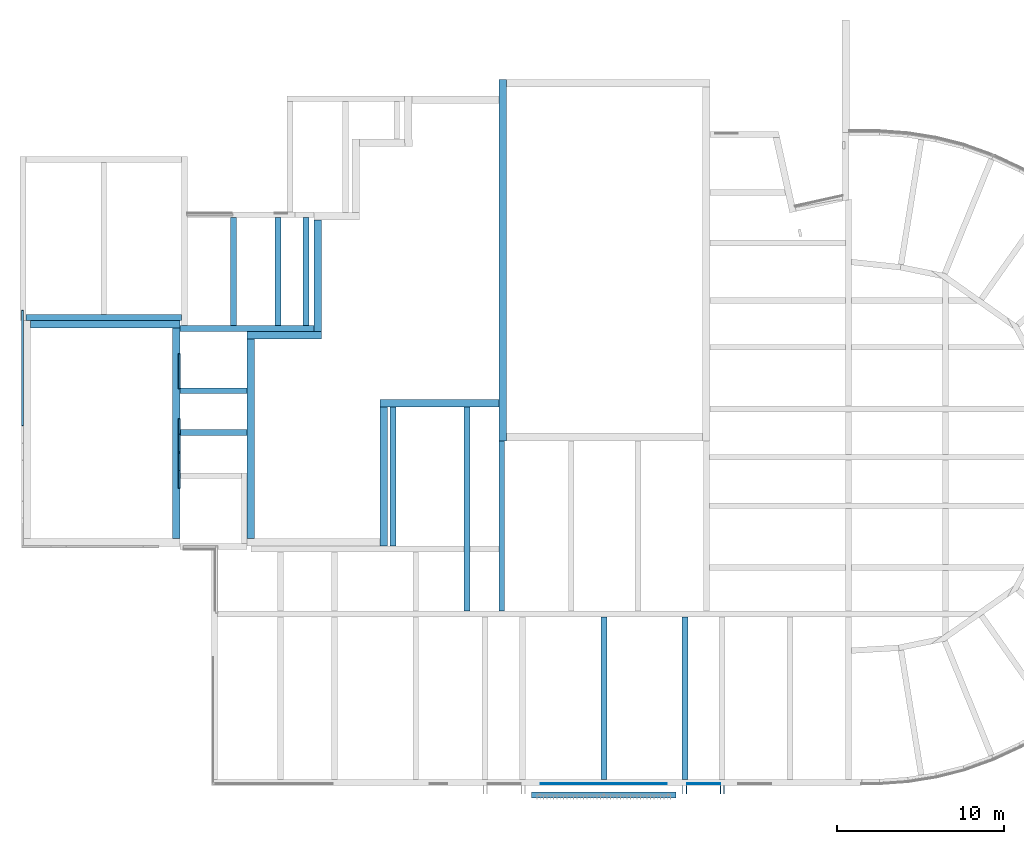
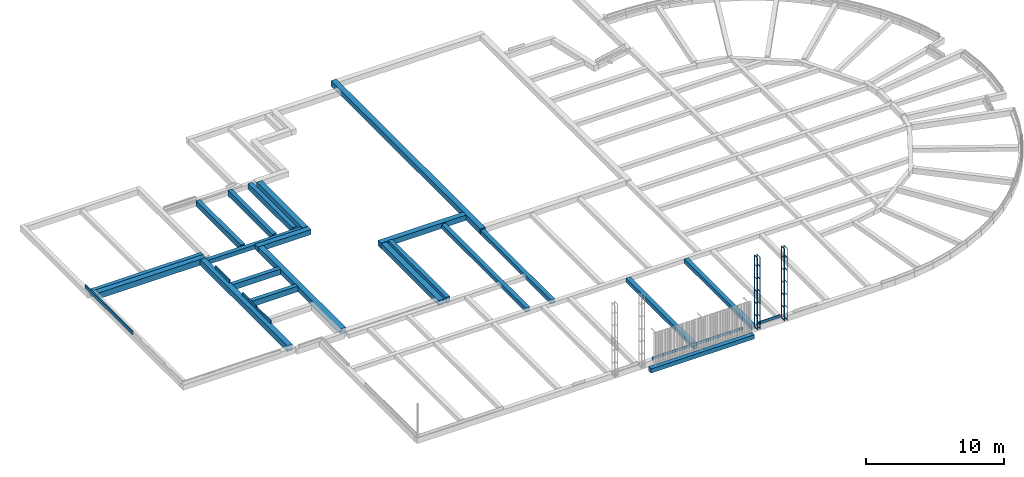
# One storey, part 2 of 11: 30 walls, 3 openings.
"""IFC2X3 building model written with IfcOpenShell, lengths in millimetres."""

from ifc_helpers import new_model, entity, si_unit, converted_unit, derived_unit, direction, frame, frame_2d, origin, origin_2d_with_axis, place, context, subcontext, project, spatial, polyline, rectangle, extrude, clip, bounded_halfspace, material, layer, layer_set, layer_usage, type_object, element, save


model = new_model("IFC2X3")

# Units and contexts
model_context = context("Model", 3, precision=0.01, world=origin(), true_north=direction((6.12303176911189e-17, 1.0)))
body_context = subcontext(model_context, "Body", "Model", "MODEL_VIEW")
ifc_project = project(units=[si_unit("LENGTHUNIT", "METRE", prefix="MILLI"), si_unit("AREAUNIT", "SQUARE_METRE"), si_unit("VOLUMEUNIT", "CUBIC_METRE"), converted_unit("PLANEANGLEUNIT", "DEGREE", entity("IfcRatioMeasure", 0.0174532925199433), si_unit("PLANEANGLEUNIT", "RADIAN"), dimensions=[0, 0, 0, 0, 0, 0, 0]), si_unit("MASSUNIT", "GRAM", prefix="KILO"), derived_unit("MASSDENSITYUNIT", [(si_unit("MASSUNIT", "GRAM", prefix="KILO"), 1), (si_unit("LENGTHUNIT", "METRE"), -3)]), derived_unit("MOMENTOFINERTIAUNIT", [(si_unit("LENGTHUNIT", "METRE"), 4)]), si_unit("TIMEUNIT", "SECOND"), si_unit("FREQUENCYUNIT", "HERTZ"), si_unit("THERMODYNAMICTEMPERATUREUNIT", "DEGREE_CELSIUS"), derived_unit("THERMALTRANSMITTANCEUNIT", [(si_unit("MASSUNIT", "GRAM", prefix="KILO"), 1), (si_unit("THERMODYNAMICTEMPERATUREUNIT", "KELVIN"), -1), (si_unit("TIMEUNIT", "SECOND"), -3)]), derived_unit("VOLUMETRICFLOWRATEUNIT", [(si_unit("LENGTHUNIT", "METRE"), 3), (si_unit("TIMEUNIT", "SECOND"), -1)]), si_unit("ELECTRICCURRENTUNIT", "AMPERE"), si_unit("ELECTRICVOLTAGEUNIT", "VOLT"), si_unit("POWERUNIT", "WATT"), si_unit("FORCEUNIT", "NEWTON", prefix="KILO"), si_unit("ILLUMINANCEUNIT", "LUX"), si_unit("LUMINOUSFLUXUNIT", "LUMEN"), si_unit("LUMINOUSINTENSITYUNIT", "CANDELA"), derived_unit("USERDEFINED", [(si_unit("MASSUNIT", "GRAM", prefix="KILO"), -1), (si_unit("LENGTHUNIT", "METRE"), -2), (si_unit("TIMEUNIT", "SECOND"), 3), (si_unit("LUMINOUSFLUXUNIT", "LUMEN"), 1)]), derived_unit("LINEARVELOCITYUNIT", [(si_unit("LENGTHUNIT", "METRE"), 1), (si_unit("TIMEUNIT", "SECOND"), -1)]), si_unit("PRESSUREUNIT", "PASCAL"), derived_unit("USERDEFINED", [(si_unit("LENGTHUNIT", "METRE"), -2), (si_unit("MASSUNIT", "GRAM", prefix="KILO"), 1), (si_unit("TIMEUNIT", "SECOND"), -2)]), derived_unit("LINEARFORCEUNIT", [(si_unit("MASSUNIT", "GRAM", prefix="KILO"), 1), (si_unit("LENGTHUNIT", "METRE"), 1), (si_unit("TIMEUNIT", "SECOND"), -2), (si_unit("LENGTHUNIT", "METRE"), -1)]), derived_unit("PLANARFORCEUNIT", [(si_unit("MASSUNIT", "GRAM", prefix="KILO"), 1), (si_unit("LENGTHUNIT", "METRE"), 1), (si_unit("TIMEUNIT", "SECOND"), -2), (si_unit("LENGTHUNIT", "METRE"), -2)])], contexts=[model_context])

# Site, building, storey
site_placement = place(None, origin())
site = spatial("IfcSite", under=ifc_project, at=site_placement, Name="Default", CompositionType="ELEMENT")
building_placement = place(site_placement, origin())
building = spatial("IfcBuilding", under=site, at=building_placement, Name="-", CompositionType="ELEMENT")
storey_placement = place(building_placement, frame((0.0, 0.0, -780.0)))
storey = spatial("IfcBuildingStorey", under=building, at=storey_placement, Name="ok. fundering", CompositionType="ELEMENT", Elevation=-780.0)

# Wall
ifc_material_1 = material(Name="AL_metselwerk 210x100x50 halfsteens geel")
ifc_layer_1 = layer(ifc_material_1, 100.0)
ifc_layer_set_1 = layer_set([ifc_layer_1], Name="Basic Wall:NLRS_20_WA_Metselwerk-100mm")
ifc_layer_usage_1 = layer_usage(ifc_layer_set_1, "AXIS2", "NEGATIVE", 50.0)
wall_type_1 = type_object("IfcWallType", Name="Basic Wall:NLRS_20_WA_Metselwerk-100mm", PredefinedType="STANDARD", material=ifc_layer_set_1)
wall_1_placement = place(storey_placement, frame((9340.09502929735, 25823.1389249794, 520.0), z_axis=(0.0, 0.0, 1.0), x_axis=(0.0, -1.0, 0.0)))
element("IfcWallStandardCase", 1, at=wall_1_placement, inside=storey, type_object=wall_type_1, material=ifc_layer_usage_1, Name="Basic Wall:NLRS_20_WA_Metselwerk-100mm", ObjectType="Basic Wall:NLRS_20_WA_Metselwerk-100mm", context=body_context, shape_type="SweptSolid", body=[
    extrude(rectangle(XDim=2091.91806266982, YDim=100.000000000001, at=frame_2d((1045.95903133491, -2.02504679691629e-13), x_axis=(-1.0, 0.0))), origin(), (0.0, 0.0, 1.0), 259.99999999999),
])

# Wall, openings
ifc_layer_usage_2 = layer_usage(ifc_layer_set_1, "AXIS2", "NEGATIVE", 50.0)
wall_2_placement = place(storey_placement, frame((9340.09502929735, 21915.3806605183, 530.0), z_axis=(0.0, 0.0, 1.0), x_axis=(0.0, -1.0, 0.0)))
wall_2 = element("IfcWallStandardCase", 2, at=wall_2_placement, inside=storey, type_object=wall_type_1, material=ifc_layer_usage_2, Name="Basic Wall:NLRS_20_WA_Metselwerk-100mm", ObjectType="Basic Wall:NLRS_20_WA_Metselwerk-100mm", context=body_context, shape_type="SweptSolid", body=[
    extrude(rectangle(XDim=4145.5604100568, YDim=100.000000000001, at=frame_2d((2072.7802050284, 0.0), x_axis=(-1.0, 0.0))), origin(), (0.0, 0.0, 1.0), 250.0),
])
opening_1_placement = place(wall_2_placement, origin())
element("IfcOpeningElement", 3, at=opening_1_placement, cuts=wall_2, Name="Basic Wall:NLRS_20_WA_Metselwerk-100mm", ObjectType="Opening", context=body_context, shape_type="SweptSolid", body=[
    extrude(rectangle(XDim=2142.00000000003, YDim=1033.99999999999, at=frame_2d((1.08002495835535e-12, 0.0), x_axis=(0.0, 1.0))), frame((2584.5604100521, -1480.32428373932, 1271.0), z_axis=(0.0, 1.0, 0.0), x_axis=(-1.0, 0.0, 0.0)), (0.0, 0.0, 1.0), 3048.0),
])
opening_2_placement = place(wall_2_placement, origin())
element("IfcOpeningElement", 4, at=opening_2_placement, cuts=wall_2, Name="Basic Wall:NLRS_20_WA_Metselwerk-100mm", ObjectType="Opening", context=body_context, shape_type="SweptSolid", body=[
    extrude(rectangle(XDim=2142.00000000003, YDim=1033.99999999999, at=frame_2d((-2.1600499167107e-12, 0.0), x_axis=(0.0, 1.0))), frame((1450.5604100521, -1480.32428373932, 1271.0), z_axis=(0.0, 1.0, 0.0), x_axis=(-1.0, 0.0, 0.0)), (0.0, 0.0, 1.0), 3048.0),
])

# Walls
ifc_material_2 = material(Name="NLRS_g2_baksteen  rood genuanceerd Klamp")
ifc_layer_2 = layer(ifc_material_2, 50.0)
ifc_layer_set_2 = layer_set([ifc_layer_2], Name="Basic Wall:NLRS_20_WA_Metselwerk klamp, Eems wf-p-0081-25")
ifc_layer_usage_3 = layer_usage(ifc_layer_set_2, "AXIS2", "NEGATIVE", 25.0)
wall_type_2 = type_object("IfcWallType", Name="Basic Wall:NLRS_20_WA_Metselwerk klamp, Eems wf-p-0081-25", PredefinedType="STANDARD", material=ifc_layer_set_2)
wall_3_placement = place(storey_placement, frame((30954.8462249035, 81.3703555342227, 500.0)))
element("IfcWallStandardCase", 5, at=wall_3_placement, inside=storey, type_object=wall_type_2, material=ifc_layer_usage_3, Name="Basic Wall:NLRS_20_WA_Metselwerk klamp, Eems wf-p-0081-25", ObjectType="Basic Wall:NLRS_20_WA_Metselwerk klamp, Eems wf-p-0081-25", context=body_context, shape_type="SweptSolid", body=[
    extrude(rectangle(XDim=7552.43969210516, YDim=50.0, at=frame_2d((3776.21984605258, -1.77635683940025e-15), x_axis=(-1.0, 0.0))), origin(), (0.0, 0.0, 1.0), 239.99999999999),
])
ifc_layer_usage_4 = layer_usage(ifc_layer_set_2, "AXIS2", "NEGATIVE", 25.0)
wall_4_placement = place(storey_placement, frame((39728.0668104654, 81.3703555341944, 500.0)))
element("IfcWallStandardCase", 6, at=wall_4_placement, inside=storey, type_object=wall_type_2, material=ifc_layer_usage_4, Name="Basic Wall:NLRS_20_WA_Metselwerk klamp, Eems wf-p-0081-25", ObjectType="Basic Wall:NLRS_20_WA_Metselwerk klamp, Eems wf-p-0081-25", context=body_context, shape_type="SweptSolid", body=[
    extrude(rectangle(XDim=1959.22548686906, YDim=50.0, at=frame_2d((979.612743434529, -8.88178419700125e-15), x_axis=(-1.0, 0.0))), origin(), (0.0, 0.0, 1.0), 239.99999999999),
])
ifc_material_3 = material(Name="NLRS_f2_beton")
ifc_layer_3 = layer(ifc_material_3, 450.0)
ifc_layer_set_3 = layer_set([ifc_layer_3], Name="Basic Wall:NLRS_16_WA_funderingsbalk 450x...mm_gen_aly")
ifc_layer_usage_5 = layer_usage(ifc_layer_set_3, "AXIS2", "NEGATIVE", 225.0)
wall_type_3 = type_object("IfcWallType", Name="Basic Wall:NLRS_16_WA_funderingsbalk 450x...mm_gen_aly", PredefinedType="STANDARD", material=ifc_layer_set_3)
wall_5_placement = place(storey_placement, frame((28679.0, 20606.3202504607, 0.0), z_axis=(0.0, 0.0, 1.0), x_axis=(0.0, 1.0, 0.0)))
element("IfcWallStandardCase", 7, at=wall_5_placement, inside=storey, type_object=wall_type_3, material=ifc_layer_usage_5, Name="Basic Wall:NLRS_16_WA_funderingsbalk 450x...mm_gen_aly", ObjectType="Basic Wall:NLRS_16_WA_funderingsbalk 450x...mm_gen_aly", context=body_context, shape_type="SweptSolid", body=[
    extrude(rectangle(XDim=21619.0, YDim=450.000000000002, at=frame_2d((10809.5, 0.0), x_axis=(-1.0, 0.0))), origin(), (0.0, 0.0, 1.0), 469.999999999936),
])
ifc_layer_usage_6 = layer_usage(ifc_layer_set_3, "AXIS2", "NEGATIVE", 225.0)
wall_6_placement = place(storey_placement, frame((425.976011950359, 27580.9865767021, 0.0)))
element("IfcWallStandardCase", 8, at=wall_6_placement, inside=storey, type_object=wall_type_3, material=ifc_layer_usage_6, Name="Basic Wall:NLRS_16_WA_funderingsbalk 450x...mm_gen_aly", ObjectType="Basic Wall:NLRS_16_WA_funderingsbalk 450x...mm_gen_aly", context=body_context, shape_type="SweptSolid", body=[
    extrude(rectangle(XDim=8964.05425748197, YDim=450.000000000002, at=frame_2d((4482.02712874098, -5.6843418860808e-13), x_axis=(-1.0, 0.0))), origin(), (0.0, 0.0, 1.0), 519.999999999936),
])
ifc_layer_usage_7 = layer_usage(ifc_layer_set_3, "AXIS2", "NEGATIVE", 225.0)
wall_7_placement = place(storey_placement, frame((9165.03026943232, 27355.9865767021, 0.0), z_axis=(0.0, 0.0, 1.0), x_axis=(0.0, -1.0, 0.0)))
element("IfcWallStandardCase", 9, at=wall_7_placement, inside=storey, type_object=wall_type_3, material=ifc_layer_usage_7, Name="Basic Wall:NLRS_16_WA_funderingsbalk 450x...mm_gen_aly", ObjectType="Basic Wall:NLRS_16_WA_funderingsbalk 450x...mm_gen_aly", context=body_context, shape_type="SweptSolid", body=[
    extrude(rectangle(XDim=12611.2464471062, YDim=449.999999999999, at=frame_2d((6305.62322355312, 1.56319401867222e-13), x_axis=(-1.0, 0.0))), origin(), (0.0, 0.0, 1.0), 519.999999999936),
])
ifc_layer_usage_8 = layer_usage(ifc_layer_set_3, "AXIS2", "NEGATIVE", 225.0)
wall_8_placement = place(storey_placement, frame((28454.0, 22860.7754001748, 0.0), z_axis=(0.0, 0.0, 1.0), x_axis=(-1.0, 0.0, 0.0)))
element("IfcWallStandardCase", 10, at=wall_8_placement, inside=storey, type_object=wall_type_3, material=ifc_layer_usage_8, Name="Basic Wall:NLRS_16_WA_funderingsbalk 450x...mm_gen_aly", ObjectType="Basic Wall:NLRS_16_WA_funderingsbalk 450x...mm_gen_aly", context=body_context, shape_type="SweptSolid", body=[
    extrude(rectangle(XDim=7115.00000000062, YDim=450.000000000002, at=frame_2d((3557.50000000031, 4.54747350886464e-13), x_axis=(-1.0, 0.0))), origin(), (0.0, 0.0, 1.0), 469.999999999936),
])
ifc_layer_usage_9 = layer_usage(ifc_layer_set_3, "AXIS2", "NEGATIVE", 225.0)
wall_9_placement = place(storey_placement, frame((21564.0, 22635.7754001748, 0.0), z_axis=(0.0, 0.0, 1.0), x_axis=(0.0, -1.0, 0.0)))
element("IfcWallStandardCase", 11, at=wall_9_placement, inside=storey, type_object=wall_type_3, material=ifc_layer_usage_9, Name="Basic Wall:NLRS_16_WA_funderingsbalk 450x...mm_gen_aly", ObjectType="Basic Wall:NLRS_16_WA_funderingsbalk 450x...mm_gen_aly", context=body_context, shape_type="SweptSolid", body=[
    extrude(rectangle(XDim=8328.88661471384, YDim=450.000000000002, at=frame_2d((4164.44330735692, -6.3948846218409e-13), x_axis=(-1.0, 0.0))), origin(), (0.0, 0.0, 1.0), 449.999999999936),
])
ifc_layer_usage_10 = layer_usage(ifc_layer_set_3, "AXIS2", "NEGATIVE", 225.0)
wall_10_placement = place(storey_placement, frame((13400.0, 26921.1887100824, 0.0)))
element("IfcWallStandardCase", 12, at=wall_10_placement, inside=storey, type_object=wall_type_3, material=ifc_layer_usage_10, Name="Basic Wall:NLRS_16_WA_funderingsbalk 450x...mm_gen_aly", ObjectType="Basic Wall:NLRS_16_WA_funderingsbalk 450x...mm_gen_aly", context=body_context, shape_type="SweptSolid", body=[
    extrude(rectangle(XDim=4444.64234277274, YDim=450.000000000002, at=frame_2d((2222.32117138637, -2.1316282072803e-13), x_axis=(-1.0, 0.0))), origin(), (0.0, 0.0, 1.0), 449.999999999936),
])
ifc_layer_usage_11 = layer_usage(ifc_layer_set_3, "AXIS2", "NEGATIVE", 225.0)
wall_11_placement = place(storey_placement, frame((13625.0, 26696.1887100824, 0.0), z_axis=(0.0, 0.0, 1.0), x_axis=(0.0, -1.0, 0.0)))
element("IfcWallStandardCase", 13, at=wall_11_placement, inside=storey, type_object=wall_type_3, material=ifc_layer_usage_11, Name="Basic Wall:NLRS_16_WA_funderingsbalk 450x...mm_gen_aly", ObjectType="Basic Wall:NLRS_16_WA_funderingsbalk 450x...mm_gen_aly", context=body_context, shape_type="SweptSolid", body=[
    extrude(rectangle(XDim=11939.2999246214, YDim=450.000000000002, at=frame_2d((5969.64996231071, -1.84741111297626e-13), x_axis=(-1.0, 0.0))), origin(), (0.0, 0.0, 1.0), 449.999999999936),
])
ifc_layer_usage_12 = layer_usage(ifc_layer_set_3, "AXIS2", "NEGATIVE", 225.0)
wall_12_placement = place(storey_placement, frame((17619.6423427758, 33812.1311772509, 0.0), z_axis=(0.0, 0.0, 1.0), x_axis=(0.0, -1.0, 0.0)))
element("IfcWallStandardCase", 14, at=wall_12_placement, inside=storey, type_object=wall_type_3, material=ifc_layer_usage_12, Name="Basic Wall:NLRS_16_WA_funderingsbalk 450x...mm_gen_aly", ObjectType="Basic Wall:NLRS_16_WA_funderingsbalk 450x...mm_gen_aly", context=body_context, shape_type="SweptSolid", body=[
    extrude(rectangle(XDim=6665.94246716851, YDim=450.000000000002, at=frame_2d((3332.97123358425, -7.38964445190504e-13), x_axis=(-1.0, 0.0))), origin(), (0.0, 0.0, 1.0), 469.999999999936),
])
ifc_layer_4 = layer(ifc_material_3, 350.0)
ifc_layer_set_4 = layer_set([ifc_layer_4], Name="Basic Wall:NLRS_16_WA_funderingsbalk 350x...mm_gen_aly")
ifc_layer_usage_13 = layer_usage(ifc_layer_set_4, "AXIS2", "NEGATIVE", 175.0)
wall_type_4 = type_object("IfcWallType", Name="Basic Wall:NLRS_16_WA_funderingsbalk 350x...mm_gen_aly", PredefinedType="STANDARD", material=ifc_layer_set_4)
wall_13_placement = place(storey_placement, frame((39587.2795366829, 336.121222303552, 0.0), z_axis=(0.0, 0.0, 1.0), x_axis=(0.0, 1.0, 0.0)))
element("IfcWallStandardCase", 15, at=wall_13_placement, inside=storey, type_object=wall_type_4, material=ifc_layer_usage_13, Name="Basic Wall:NLRS_16_WA_funderingsbalk 350x...mm_gen_aly", ObjectType="Basic Wall:NLRS_16_WA_funderingsbalk 350x...mm_gen_aly", context=body_context, shape_type="Clipping", body=[
    clip(extrude(rectangle(XDim=9732.50287309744, YDim=350.000000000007, at=frame_2d((4866.25143654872, 8.66862137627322e-13), x_axis=(-1.0, 0.0))), origin(), (0.0, 0.0, 1.0), 369.999999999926), bounded_halfspace(frame((0.0, -175.0, 370.0), z_axis=(0.0, 0.0, -1.0), x_axis=(1.0, 0.0, 0.0)), True, frame((0.0, -175.0, 370.0), z_axis=(0.0, 0.0, -1.0), x_axis=(1.0, 0.0, 0.0)), polyline([(0.0, 0.0), (0.0, -350.0), (9732.50287309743, -350.0), (9732.50287309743, 0.0), (0.0, 0.0)]))),
])
ifc_layer_usage_14 = layer_usage(ifc_layer_set_4, "AXIS2", "NEGATIVE", 175.0)
wall_14_placement = place(storey_placement, frame((22120.0, 14306.888785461, 0.0), z_axis=(0.0, 0.0, 1.0), x_axis=(0.0, 1.0, 0.0)))
element("IfcWallStandardCase", 16, at=wall_14_placement, inside=storey, type_object=wall_type_4, material=ifc_layer_usage_14, Name="Basic Wall:NLRS_16_WA_funderingsbalk 350x...mm_gen_aly", ObjectType="Basic Wall:NLRS_16_WA_funderingsbalk 350x...mm_gen_aly", context=body_context, shape_type="SweptSolid", body=[
    extrude(rectangle(XDim=8328.88661471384, YDim=349.999999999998, at=frame_2d((4164.44330735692, 8.81072992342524e-13), x_axis=(-1.0, 0.0))), origin(), (0.0, 0.0, 1.0), 499.999999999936),
])
ifc_layer_usage_15 = layer_usage(ifc_layer_set_4, "AXIS2", "NEGATIVE", 175.0)
wall_15_placement = place(storey_placement, frame((26557.1458887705, 10418.624095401, 0.0), z_axis=(0.0, 0.0, 1.0), x_axis=(0.0, 1.0, 0.0)))
element("IfcWallStandardCase", 17, at=wall_15_placement, inside=storey, type_object=wall_type_4, material=ifc_layer_usage_15, Name="Basic Wall:NLRS_16_WA_funderingsbalk 350x...mm_gen_aly", ObjectType="Basic Wall:NLRS_16_WA_funderingsbalk 350x...mm_gen_aly", context=body_context, shape_type="Clipping", body=[
    clip(extrude(rectangle(XDim=12217.1513047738, YDim=349.999999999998, at=frame_2d((6108.57565238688, -3.69482222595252e-13), x_axis=(-1.0, 0.0))), origin(), (0.0, 0.0, 1.0), 369.999999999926), bounded_halfspace(frame((0.0, -175.0, 370.0), z_axis=(0.0, 0.0, -1.0), x_axis=(1.0, 0.0, 0.0)), True, frame((0.0, -175.0, 370.0), z_axis=(0.0, 0.0, -1.0), x_axis=(1.0, 0.0, 0.0)), polyline([(0.0, 0.0), (0.0, -350.0), (3538.26469005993, -350.0), (3888.26469005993, -350.0), (12217.1513047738, -350.0), (12217.1513047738, 0.0), (3888.26469005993, 0.0), (3538.26469005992, 0.0), (0.0, 0.0)]))),
])
ifc_layer_usage_16 = layer_usage(ifc_layer_set_4, "AXIS2", "NEGATIVE", 175.0)
wall_16_placement = place(storey_placement, frame((28630.6948343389, 10418.624095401, 0.0), z_axis=(0.0, 0.0, 1.0), x_axis=(0.0, 1.0, 0.0)))
element("IfcWallStandardCase", 18, at=wall_16_placement, inside=storey, type_object=wall_type_4, material=ifc_layer_usage_16, Name="Basic Wall:NLRS_16_WA_funderingsbalk 350x...mm_gen_aly", ObjectType="Basic Wall:NLRS_16_WA_funderingsbalk 350x...mm_gen_aly", context=body_context, shape_type="Clipping", body=[
    clip(extrude(rectangle(XDim=10187.6961550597, YDim=349.999999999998, at=frame_2d((5093.84807752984, 1.73372427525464e-12), x_axis=(-1.0, 0.0))), origin(), (0.0, 0.0, 1.0), 369.999999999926), bounded_halfspace(frame((0.0, -175.0, 370.0), z_axis=(0.0, 0.0, -1.0), x_axis=(1.0, 0.0, 0.0)), True, frame((0.0, -175.0, 370.0), z_axis=(0.0, 0.0, -1.0), x_axis=(1.0, 0.0, 0.0)), polyline([(0.0, 0.0), (0.0, -350.0), (3538.26469005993, -350.0), (3888.26469005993, -350.0), (10187.6961550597, -350.0), (10187.6961550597, -335.0), (10187.6961550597, 0.0), (0.0, 0.0)]))),
])
ifc_layer_usage_17 = layer_usage(ifc_layer_set_4, "AXIS2", "NEGATIVE", 175.0)
wall_17_placement = place(storey_placement, frame((9390.03026943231, 21101.2208623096, 0.0)))
element("IfcWallStandardCase", 19, at=wall_17_placement, inside=storey, type_object=wall_type_4, material=ifc_layer_usage_17, Name="Basic Wall:NLRS_16_WA_funderingsbalk 350x...mm_gen_aly", ObjectType="Basic Wall:NLRS_16_WA_funderingsbalk 350x...mm_gen_aly", context=body_context, shape_type="SweptSolid", body=[
    extrude(rectangle(XDim=4009.96973056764, YDim=349.999999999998, at=frame_2d((2004.98486528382, -5.82645043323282e-13), x_axis=(-1.0, 0.0))), origin(), (0.0, 0.0, 1.0), 499.999999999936),
])
ifc_layer_usage_18 = layer_usage(ifc_layer_set_4, "AXIS2", "NEGATIVE", 175.0)
wall_18_placement = place(storey_placement, frame((9390.03026943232, 23601.2208623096, 0.0)))
element("IfcWallStandardCase", 20, at=wall_18_placement, inside=storey, type_object=wall_type_4, material=ifc_layer_usage_18, Name="Basic Wall:NLRS_16_WA_funderingsbalk 350x...mm_gen_aly", ObjectType="Basic Wall:NLRS_16_WA_funderingsbalk 350x...mm_gen_aly", context=body_context, shape_type="SweptSolid", body=[
    extrude(rectangle(XDim=4009.96973056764, YDim=349.999999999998, at=frame_2d((2004.98486528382, 2.8421709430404e-14), x_axis=(-1.0, 0.0))), origin(), (0.0, 0.0, 1.0), 499.999999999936),
])
ifc_layer_usage_19 = layer_usage(ifc_layer_set_4, "AXIS2", "NEGATIVE", 175.0)
wall_19_placement = place(storey_placement, frame((15235.5938505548, 27496.1887100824, 0.0), z_axis=(0.0, 0.0, 1.0), x_axis=(0.0, 1.0, 0.0)))
element("IfcWallStandardCase", 21, at=wall_19_placement, inside=storey, type_object=wall_type_4, material=ifc_layer_usage_19, Name="Basic Wall:NLRS_16_WA_funderingsbalk 350x...mm_gen_aly", ObjectType="Basic Wall:NLRS_16_WA_funderingsbalk 350x...mm_gen_aly", context=body_context, shape_type="SweptSolid", body=[
    extrude(rectangle(XDim=6450.924661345, YDim=349.999999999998, at=frame_2d((3225.4623306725, -4.83169060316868e-13), x_axis=(-1.0, 0.0))), origin(), (0.0, 0.0, 1.0), 499.999999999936),
])
ifc_layer_usage_20 = layer_usage(ifc_layer_set_4, "AXIS2", "NEGATIVE", 175.0)
wall_20_placement = place(storey_placement, frame((9390.03026943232, 27321.1887100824, 0.0)))
element("IfcWallStandardCase", 22, at=wall_20_placement, inside=storey, type_object=wall_type_4, material=ifc_layer_usage_20, Name="Basic Wall:NLRS_16_WA_funderingsbalk 350x...mm_gen_aly", ObjectType="Basic Wall:NLRS_16_WA_funderingsbalk 350x...mm_gen_aly", context=body_context, shape_type="Clipping", body=[
    clip(extrude(rectangle(XDim=8004.61207334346, YDim=349.999999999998, at=frame_2d((4002.30603667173, 1.08002495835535e-12), x_axis=(-1.0, 0.0))), origin(), (0.0, 0.0, 1.0), 369.999999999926), bounded_halfspace(frame((4009.96973057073, -175.0, 370.0), z_axis=(0.0, 0.0, -1.0), x_axis=(0.0, 1.0, 0.0)), True, frame((4009.96973057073, -175.0, 370.0), z_axis=(0.0, 0.0, -1.0), x_axis=(0.0, 1.0, 0.0)), polyline([(0.0, 0.0), (0.0, -4009.96973057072), (350.0, -4009.96973057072), (350.0, 3994.64234277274), (0.0, 3994.64234277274), (0.0, 0.0)]))),
])
ifc_layer_usage_21 = layer_usage(ifc_layer_set_4, "AXIS2", "NEGATIVE", 175.0)
wall_21_placement = place(storey_placement, frame((12577.0938505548, 27496.1887100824, 0.0), z_axis=(0.0, 0.0, 1.0), x_axis=(0.0, 1.0, 0.0)))
element("IfcWallStandardCase", 23, at=wall_21_placement, inside=storey, type_object=wall_type_4, material=ifc_layer_usage_21, Name="Basic Wall:NLRS_16_WA_funderingsbalk 350x...mm_gen_aly", ObjectType="Basic Wall:NLRS_16_WA_funderingsbalk 350x...mm_gen_aly", context=body_context, shape_type="SweptSolid", body=[
    extrude(rectangle(XDim=6450.924661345, YDim=349.999999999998, at=frame_2d((3225.4623306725, -5.11590769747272e-13), x_axis=(-1.0, 0.0))), origin(), (0.0, 0.0, 1.0), 499.999999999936),
])
ifc_layer_usage_22 = layer_usage(ifc_layer_set_4, "AXIS2", "NEGATIVE", 175.0)
wall_22_placement = place(storey_placement, frame((9475.0, 27980.9865767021, 0.0), z_axis=(0.0, 0.0, 1.0), x_axis=(-1.0, 0.0, 0.0)))
element("IfcWallStandardCase", 24, at=wall_22_placement, inside=storey, type_object=wall_type_4, material=ifc_layer_usage_22, Name="Basic Wall:NLRS_16_WA_funderingsbalk 350x...mm_gen_aly", ObjectType="Basic Wall:NLRS_16_WA_funderingsbalk 350x...mm_gen_aly", context=body_context, shape_type="SweptSolid", body=[
    extrude(rectangle(XDim=9316.17784680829, YDim=349.999999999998, at=frame_2d((4658.08892340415, 1.62003743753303e-12), x_axis=(-1.0, 0.0))), origin(), (0.0, 0.0, 1.0), 499.999999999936),
])
ifc_layer_usage_23 = layer_usage(ifc_layer_set_4, "AXIS2", "NEGATIVE", 175.0)
wall_23_placement = place(storey_placement, frame((16919.6423427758, 27496.1887100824, 0.0), z_axis=(0.0, 0.0, 1.0), x_axis=(0.0, 1.0, 0.0)))
element("IfcWallStandardCase", 25, at=wall_23_placement, inside=storey, type_object=wall_type_4, material=ifc_layer_usage_23, Name="Basic Wall:NLRS_16_WA_funderingsbalk 350x...mm_gen_aly", ObjectType="Basic Wall:NLRS_16_WA_funderingsbalk 350x...mm_gen_aly", context=body_context, shape_type="SweptSolid", body=[
    extrude(rectangle(XDim=6450.924661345, YDim=349.999999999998, at=frame_2d((3225.4623306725, 0.0), x_axis=(-1.0, 0.0))), origin(), (0.0, 0.0, 1.0), 499.999999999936),
])
ifc_layer_usage_24 = layer_usage(ifc_layer_set_4, "AXIS2", "NEGATIVE", 175.0)
wall_24_placement = place(storey_placement, frame((34741.2822129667, 336.121222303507, 0.0), z_axis=(0.0, 0.0, 1.0), x_axis=(0.0, 1.0, 0.0)))
element("IfcWallStandardCase", 26, at=wall_24_placement, inside=storey, type_object=wall_type_4, material=ifc_layer_usage_24, Name="Basic Wall:NLRS_16_WA_funderingsbalk 350x...mm_gen_aly", ObjectType="Basic Wall:NLRS_16_WA_funderingsbalk 350x...mm_gen_aly", context=body_context, shape_type="Clipping", body=[
    clip(extrude(rectangle(XDim=9732.5028730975, YDim=349.999999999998, at=frame_2d((4866.25143654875, 9.80548975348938e-13), x_axis=(-1.0, 0.0))), origin(), (0.0, 0.0, 1.0), 369.999999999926), bounded_halfspace(frame((0.0, -175.0, 370.0), z_axis=(0.0, 0.0, -1.0), x_axis=(1.0, 0.0, 0.0)), True, frame((0.0, -175.0, 370.0), z_axis=(0.0, 0.0, -1.0), x_axis=(1.0, 0.0, 0.0)), polyline([(0.0, 0.0), (0.0, -350.0), (9732.50287309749, -350.0), (9732.50287309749, 0.0), (0.0, 0.0)]))),
])
ifc_layer_usage_25 = layer_usage(ifc_layer_set_4, "AXIS2", "NEGATIVE", 175.0)
wall_25_placement = place(storey_placement, frame((30400.9026807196, -575.126023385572, 0.0)))
element("IfcWallStandardCase", 27, at=wall_25_placement, inside=storey, type_object=wall_type_4, material=ifc_layer_usage_25, Name="Basic Wall:NLRS_16_WA_funderingsbalk 350x...mm_gen_aly", ObjectType="Basic Wall:NLRS_16_WA_funderingsbalk 350x...mm_gen_aly", context=body_context, shape_type="SweptSolid", body=[
    extrude(rectangle(XDim=8650.0509669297, YDim=350.0, at=frame_2d((4325.02548346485, 5.6843418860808e-14), x_axis=(-1.0, 0.0))), origin(), (0.0, 0.0, 1.0), 369.999999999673),
])

# Wall, opening
ifc_material_4 = material(Name="NLRS_n7_isolatie PIR_gen")
ifc_layer_5 = layer(ifc_material_4, 100.0)
ifc_layer_set_5 = layer_set([ifc_layer_5], Name="Basic Wall:NLRS_22_WA_LB_isolatie PIR 100mm")
ifc_layer_usage_26 = layer_usage(ifc_layer_set_5, "AXIS2", "NEGATIVE", 50.0)
wall_type_5 = type_object("IfcWallType", Name="Basic Wall:NLRS_22_WA_LB_isolatie PIR 100mm", PredefinedType="STANDARD", material=ifc_layer_set_5)
wall_26_placement = place(storey_placement, frame((-37.1071520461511, 28404.9865767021, 500.0), z_axis=(0.0, 0.0, 1.0), x_axis=(0.0, -1.0, 0.0)))
wall_26 = element("IfcWallStandardCase", 28, at=wall_26_placement, inside=storey, type_object=wall_type_5, material=ifc_layer_usage_26, Name="Basic Wall:NLRS_22_WA_LB_isolatie PIR 100mm", ObjectType="Basic Wall:NLRS_22_WA_LB_isolatie PIR 100mm", context=body_context, shape_type="SweptSolid", body=[
    extrude(rectangle(XDim=6893.99462751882, YDim=100.0, at=frame_2d((3446.99731375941, 0.0), x_axis=(-1.0, 0.0))), origin(), (0.0, 0.0, 1.0), 329.999999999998),
])
opening_3_placement = place(wall_26_placement, origin())
element("IfcOpeningElement", 29, at=opening_3_placement, cuts=wall_26, Name="Basic Wall:NLRS_22_WA_LB_isolatie PIR 100mm", ObjectType="Opening", context=body_context, shape_type="SweptSolid", body=[
    extrude(rectangle(XDim=20.0000000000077, YDim=6294.98360403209, at=frame_2d((0.0, 0.0), x_axis=(0.0, 1.0))), frame((3746.50282550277, 50.0, 10.0), z_axis=(0.0, -1.0, 0.0), x_axis=(1.0, 0.0, 0.0)), (0.0, 0.0, 1.0), 100.0),
])

# Walls
ifc_material_5 = material(Name="AL_31_Naaldhout (vuren)")
wall_type_6 = type_object("IfcWallType", Name="Bevestiging zinken kader dak9:Bevestiging zinken kader dak", PredefinedType="NOTDEFINED", material=ifc_material_5)
wall_27_placement = place(storey_placement, frame((39426.2922973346, -516.516507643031, 500.0), z_axis=(0.0, 0.0, 1.0), x_axis=(0.0, 1.0, 0.0)))
element("IfcWall", 30, at=wall_27_placement, inside=storey, type_object=wall_type_6, material=ifc_material_5, Name="Bevestiging zinken kader dak9:Bevestiging zinken kader dak", ObjectType="Bevestiging zinken kader dak9:Bevestiging zinken kader dak", context=body_context, shape_type="SweptSolid", body=[
    extrude(rectangle(XDim=38.0, YDim=58.0000000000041, at=frame_2d((-1.77635683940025e-15, 0.0), x_axis=(1.0, 0.0))), frame((483.63772994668, -29.0, 0.0), z_axis=(0.0, 0.0, 1.0), x_axis=(-1.0, 0.0, 0.0)), (0.0, 0.0, 1.0), 6350.00000000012),
    extrude(rectangle(XDim=38.0000000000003, YDim=58.0000000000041, at=origin_2d_with_axis()), frame((19.0, -29.0, 0.0), z_axis=(0.0, 0.0, 1.0), x_axis=(-1.0, 0.0, 0.0)), (0.0, 0.0, 1.0), 6350.00000000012),
    extrude(rectangle(XDim=426.637729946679, YDim=58.0000000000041, at=frame_2d((-4.2632564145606e-14, 0.0), x_axis=(1.0, 0.0))), frame((251.31886497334, -29.0, 0.0), z_axis=(0.0, 0.0, 1.0), x_axis=(-1.0, 0.0, 0.0)), (0.0, 0.0, 1.0), 38.0),
    extrude(rectangle(XDim=426.637729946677, YDim=58.0000000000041, at=frame_2d((-2.8421709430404e-14, 0.0), x_axis=(1.0, 0.0))), frame((251.318864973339, -29.0, 1100.0), z_axis=(0.0, 0.0, 1.0), x_axis=(-1.0, 0.0, 0.0)), (0.0, 0.0, 1.0), 38.0),
    extrude(rectangle(XDim=426.637729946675, YDim=58.0000000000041, at=origin_2d_with_axis()), frame((251.318864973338, -29.0, 2200.0), z_axis=(0.0, 0.0, 1.0), x_axis=(-1.0, 0.0, 0.0)), (0.0, 0.0, 1.0), 38.0),
    extrude(rectangle(XDim=426.637729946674, YDim=58.0000000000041, at=frame_2d((-1.4210854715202e-14, 0.0), x_axis=(1.0, 0.0))), frame((251.318864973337, -29.0, 3300.0), z_axis=(0.0, 0.0, 1.0), x_axis=(-1.0, 0.0, 0.0)), (0.0, 0.0, 1.0), 38.0),
    extrude(rectangle(XDim=426.637729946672, YDim=58.0000000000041, at=frame_2d((-4.2632564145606e-14, 0.0), x_axis=(1.0, 0.0))), frame((251.318864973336, -29.0, 4400.0), z_axis=(0.0, 0.0, 1.0), x_axis=(-1.0, 0.0, 0.0)), (0.0, 0.0, 1.0), 38.0),
    extrude(rectangle(XDim=426.637729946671, YDim=58.0000000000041, at=frame_2d((-4.2632564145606e-14, 0.0), x_axis=(1.0, 0.0))), frame((251.318864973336, -29.0, 5500.0), z_axis=(0.0, 0.0, 1.0), x_axis=(-1.0, 0.0, 0.0)), (0.0, 0.0, 1.0), 38.0),
    extrude(rectangle(XDim=426.63772994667, YDim=58.0000000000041, at=frame_2d((-4.2632564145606e-14, 0.0), x_axis=(1.0, 0.0))), frame((251.318864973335, -29.0, 6312.0), z_axis=(0.0, 0.0, 1.0), x_axis=(-1.0, 0.0, 0.0)), (0.0, 0.0, 1.0), 38.0),
])
wall_type_7 = type_object("IfcWallType", Name="Bevestiging zinken kader dak10:Bevestiging zinken kader dak", PredefinedType="NOTDEFINED", material=ifc_material_5)
wall_28_placement = place(storey_placement, frame((39638.2859170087, -516.516507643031, 500.0), z_axis=(0.0, 0.0, 1.0), x_axis=(0.0, 1.0, 0.0)))
element("IfcWall", 31, at=wall_28_placement, inside=storey, type_object=wall_type_7, material=ifc_material_5, Name="Bevestiging zinken kader dak10:Bevestiging zinken kader dak", ObjectType="Bevestiging zinken kader dak10:Bevestiging zinken kader dak", context=body_context, shape_type="SweptSolid", body=[
    extrude(rectangle(XDim=38.0, YDim=58.0000000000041, at=frame_2d((-1.77635683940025e-15, 0.0), x_axis=(1.0, 0.0))), frame((483.63772994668, -29.0, 0.0), z_axis=(0.0, 0.0, 1.0), x_axis=(-1.0, 0.0, 0.0)), (0.0, 0.0, 1.0), 6350.00000000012),
    extrude(rectangle(XDim=38.0000000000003, YDim=58.0000000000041, at=origin_2d_with_axis()), frame((19.0, -29.0, 0.0), z_axis=(0.0, 0.0, 1.0), x_axis=(-1.0, 0.0, 0.0)), (0.0, 0.0, 1.0), 6350.00000000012),
    extrude(rectangle(XDim=426.637729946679, YDim=58.0000000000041, at=origin_2d_with_axis()), frame((251.31886497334, -29.0, 0.0), z_axis=(0.0, 0.0, 1.0), x_axis=(-1.0, 0.0, 0.0)), (0.0, 0.0, 1.0), 38.0),
    extrude(rectangle(XDim=426.637729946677, YDim=58.0000000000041, at=origin_2d_with_axis()), frame((251.318864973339, -29.0, 1100.0), z_axis=(0.0, 0.0, 1.0), x_axis=(-1.0, 0.0, 0.0)), (0.0, 0.0, 1.0), 38.0),
    extrude(rectangle(XDim=426.637729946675, YDim=58.0000000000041, at=origin_2d_with_axis()), frame((251.318864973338, -29.0, 2200.0), z_axis=(0.0, 0.0, 1.0), x_axis=(-1.0, 0.0, 0.0)), (0.0, 0.0, 1.0), 38.0),
    extrude(rectangle(XDim=426.637729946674, YDim=58.0000000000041, at=frame_2d((1.4210854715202e-14, 0.0), x_axis=(1.0, 0.0))), frame((251.318864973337, -29.0, 3300.0), z_axis=(0.0, 0.0, 1.0), x_axis=(-1.0, 0.0, 0.0)), (0.0, 0.0, 1.0), 38.0),
    extrude(rectangle(XDim=426.637729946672, YDim=58.0000000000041, at=origin_2d_with_axis()), frame((251.318864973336, -29.0, 4400.0), z_axis=(0.0, 0.0, 1.0), x_axis=(-1.0, 0.0, 0.0)), (0.0, 0.0, 1.0), 38.0),
    extrude(rectangle(XDim=426.637729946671, YDim=58.0000000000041, at=origin_2d_with_axis()), frame((251.318864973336, -29.0, 5500.0), z_axis=(0.0, 0.0, 1.0), x_axis=(-1.0, 0.0, 0.0)), (0.0, 0.0, 1.0), 38.0),
    extrude(rectangle(XDim=426.63772994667, YDim=58.0000000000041, at=origin_2d_with_axis()), frame((251.318864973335, -29.0, 6312.0), z_axis=(0.0, 0.0, 1.0), x_axis=(-1.0, 0.0, 0.0)), (0.0, 0.0, 1.0), 38.0),
])
wall_type_8 = type_object("IfcWallType", Name="Bevestiging zinken kader dak11:Bevestiging zinken kader dak", PredefinedType="NOTDEFINED", material=ifc_material_5)
wall_29_placement = place(storey_placement, frame((41688.2859170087, -516.516507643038, 500.0), z_axis=(0.0, 0.0, 1.0), x_axis=(0.0, 1.0, 0.0)))
element("IfcWall", 32, at=wall_29_placement, inside=storey, type_object=wall_type_8, material=ifc_material_5, Name="Bevestiging zinken kader dak11:Bevestiging zinken kader dak", ObjectType="Bevestiging zinken kader dak11:Bevestiging zinken kader dak", context=body_context, shape_type="SweptSolid", body=[
    extrude(rectangle(XDim=38.0, YDim=57.9999999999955, at=frame_2d((-1.77635683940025e-15, -4.33253433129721e-12), x_axis=(1.0, 0.0))), frame((483.63772994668, -29.0, 0.0), z_axis=(0.0, 0.0, 1.0), x_axis=(-1.0, 0.0, 0.0)), (0.0, 0.0, 1.0), 6350.00000000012),
    extrude(rectangle(XDim=38.0000000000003, YDim=58.0000000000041, at=origin_2d_with_axis()), frame((19.0, -29.0, 0.0), z_axis=(0.0, 0.0, 1.0), x_axis=(-1.0, 0.0, 0.0)), (0.0, 0.0, 1.0), 6350.00000000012),
    extrude(rectangle(XDim=426.637729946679, YDim=58.0000000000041, at=frame_2d((-4.2632564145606e-14, 0.0), x_axis=(1.0, 0.0))), frame((251.31886497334, -29.0, 0.0), z_axis=(0.0, 0.0, 1.0), x_axis=(-1.0, 0.0, 0.0)), (0.0, 0.0, 1.0), 38.0),
    extrude(rectangle(XDim=426.637729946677, YDim=58.0000000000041, at=frame_2d((-2.8421709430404e-14, 0.0), x_axis=(1.0, 0.0))), frame((251.318864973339, -29.0, 1100.0), z_axis=(0.0, 0.0, 1.0), x_axis=(-1.0, 0.0, 0.0)), (0.0, 0.0, 1.0), 38.0),
    extrude(rectangle(XDim=426.637729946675, YDim=58.0000000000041, at=origin_2d_with_axis()), frame((251.318864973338, -29.0, 2200.0), z_axis=(0.0, 0.0, 1.0), x_axis=(-1.0, 0.0, 0.0)), (0.0, 0.0, 1.0), 38.0),
    extrude(rectangle(XDim=426.637729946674, YDim=58.0000000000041, at=frame_2d((-1.4210854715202e-14, 0.0), x_axis=(1.0, 0.0))), frame((251.318864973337, -29.0, 3300.0), z_axis=(0.0, 0.0, 1.0), x_axis=(-1.0, 0.0, 0.0)), (0.0, 0.0, 1.0), 38.0),
    extrude(rectangle(XDim=426.637729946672, YDim=58.0000000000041, at=frame_2d((-4.2632564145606e-14, 0.0), x_axis=(1.0, 0.0))), frame((251.318864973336, -29.0, 4400.0), z_axis=(0.0, 0.0, 1.0), x_axis=(-1.0, 0.0, 0.0)), (0.0, 0.0, 1.0), 38.0),
    extrude(rectangle(XDim=426.637729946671, YDim=58.0000000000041, at=frame_2d((-4.2632564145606e-14, 0.0), x_axis=(1.0, 0.0))), frame((251.318864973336, -29.0, 5500.0), z_axis=(0.0, 0.0, 1.0), x_axis=(-1.0, 0.0, 0.0)), (0.0, 0.0, 1.0), 38.0),
    extrude(rectangle(XDim=426.63772994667, YDim=58.0000000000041, at=frame_2d((-4.2632564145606e-14, 0.0), x_axis=(1.0, 0.0))), frame((251.318864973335, -29.0, 6312.0), z_axis=(0.0, 0.0, 1.0), x_axis=(-1.0, 0.0, 0.0)), (0.0, 0.0, 1.0), 38.0),
])
wall_type_9 = type_object("IfcWallType", Name="Bevestiging zinken kader dak12:Bevestiging zinken kader dak", PredefinedType="NOTDEFINED", material=ifc_material_5)
wall_30_placement = place(storey_placement, frame((41899.7922973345, -516.516507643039, 500.0), z_axis=(0.0, 0.0, 1.0), x_axis=(0.0, 1.0, 0.0)))
element("IfcWall", 33, at=wall_30_placement, inside=storey, type_object=wall_type_9, material=ifc_material_5, Name="Bevestiging zinken kader dak12:Bevestiging zinken kader dak", ObjectType="Bevestiging zinken kader dak12:Bevestiging zinken kader dak", context=body_context, shape_type="SweptSolid", body=[
    extrude(rectangle(XDim=38.0, YDim=58.0000000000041, at=frame_2d((-1.77635683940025e-15, 0.0), x_axis=(1.0, 0.0))), frame((483.63772994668, -29.0, 0.0), z_axis=(0.0, 0.0, 1.0), x_axis=(-1.0, 0.0, 0.0)), (0.0, 0.0, 1.0), 6350.00000000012),
    extrude(rectangle(XDim=38.0000000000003, YDim=58.0000000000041, at=origin_2d_with_axis()), frame((19.0, -29.0, 0.0), z_axis=(0.0, 0.0, 1.0), x_axis=(-1.0, 0.0, 0.0)), (0.0, 0.0, 1.0), 6350.00000000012),
    extrude(rectangle(XDim=426.637729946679, YDim=58.0000000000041, at=frame_2d((0.0, -4.33253433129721e-12), x_axis=(1.0, 0.0))), frame((251.31886497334, -29.0, 0.0), z_axis=(0.0, 0.0, 1.0), x_axis=(-1.0, 0.0, 0.0)), (0.0, 0.0, 1.0), 38.0),
    extrude(rectangle(XDim=426.637729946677, YDim=58.0000000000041, at=frame_2d((0.0, -4.33253433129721e-12), x_axis=(1.0, 0.0))), frame((251.318864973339, -29.0, 1100.0), z_axis=(0.0, 0.0, 1.0), x_axis=(-1.0, 0.0, 0.0)), (0.0, 0.0, 1.0), 38.0),
    extrude(rectangle(XDim=426.637729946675, YDim=58.0000000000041, at=frame_2d((0.0, -4.33253433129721e-12), x_axis=(1.0, 0.0))), frame((251.318864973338, -29.0, 2200.0), z_axis=(0.0, 0.0, 1.0), x_axis=(-1.0, 0.0, 0.0)), (0.0, 0.0, 1.0), 38.0),
    extrude(rectangle(XDim=426.637729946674, YDim=58.0000000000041, at=frame_2d((1.4210854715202e-14, -4.33253433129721e-12), x_axis=(1.0, 0.0))), frame((251.318864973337, -29.0, 3300.0), z_axis=(0.0, 0.0, 1.0), x_axis=(-1.0, 0.0, 0.0)), (0.0, 0.0, 1.0), 38.0),
    extrude(rectangle(XDim=426.637729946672, YDim=58.0000000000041, at=frame_2d((0.0, -4.33253433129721e-12), x_axis=(1.0, 0.0))), frame((251.318864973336, -29.0, 4400.0), z_axis=(0.0, 0.0, 1.0), x_axis=(-1.0, 0.0, 0.0)), (0.0, 0.0, 1.0), 38.0),
    extrude(rectangle(XDim=426.637729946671, YDim=58.0000000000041, at=frame_2d((0.0, -4.33253433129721e-12), x_axis=(1.0, 0.0))), frame((251.318864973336, -29.0, 5500.0), z_axis=(0.0, 0.0, 1.0), x_axis=(-1.0, 0.0, 0.0)), (0.0, 0.0, 1.0), 38.0),
    extrude(rectangle(XDim=426.63772994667, YDim=58.0000000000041, at=frame_2d((0.0, -4.33253433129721e-12), x_axis=(1.0, 0.0))), frame((251.318864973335, -29.0, 6312.0), z_axis=(0.0, 0.0, 1.0), x_axis=(-1.0, 0.0, 0.0)), (0.0, 0.0, 1.0), 38.0),
])

save(model, "model.ifc")
